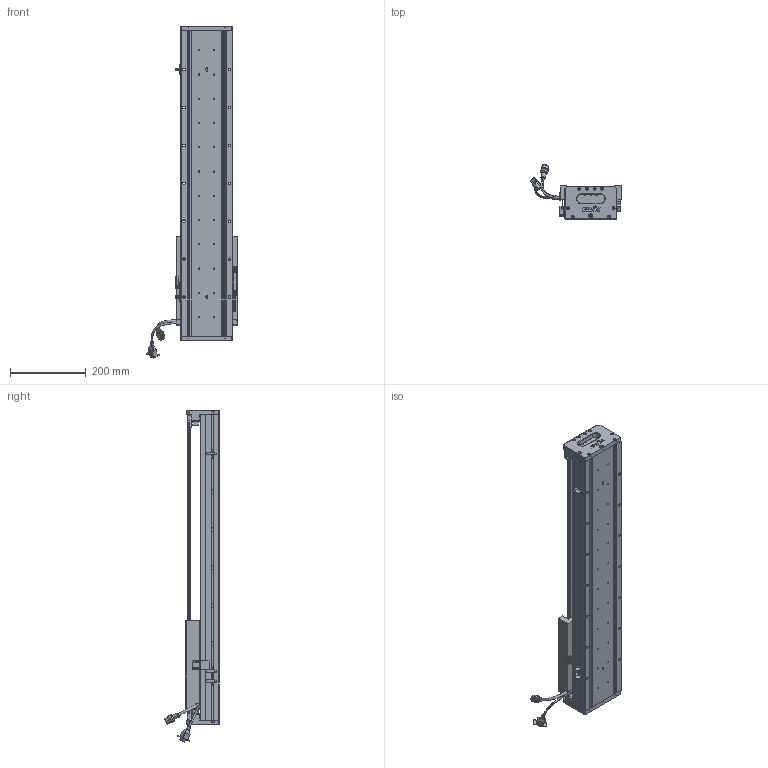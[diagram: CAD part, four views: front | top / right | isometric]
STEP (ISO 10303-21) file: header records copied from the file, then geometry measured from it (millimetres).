
FILE_DESCRIPTION (( 'STEP AP203' ), '1' );
FILE_NAME ('Z3-RY140D-1-L500-B-K.SLDASM_0500.step', '2021-05-17T08:00:17', ( '盈信电脑' ), ( '东莞市道滘镇水果街19号' ), 'SwSTEP 2.0', 'SolidWorks 2016', '' );
FILE_SCHEMA (( 'CONFIG_CONTROL_DESIGN' ));
Length unit declared in the file: millimetre
Products named in the file (36): SCALE; 140-Z-臏賑輸盄裔(21遴); 榋妏寠巭燃_暯_M2_2; SCREW-M1.6; HARNESS; SCREW-M1.6-1; SHIELDPLATE; SCALE-Part-2; HOLDER0; Z-RY140詩湍狟揤裔; PBU_SHEET; Z-140詩湍傷裔啣; HARNESS-Part-2; Z-RY140感应器672光电感应片; HARNESS-Part-1; Z3-RY140-L500直线电机模组底座_0500; SCREW-M1.6-2; 140蚥薯蝶輸; Z3-RY140-L500詩湍100mm遵_0500; 080黍杅芛假蚾釱21遴; LABEL-Part-1; COVER-Part-1; 140雄赽晤鎢ん堤盄; Z3-RY140D-1-L500-B-K.SLDASM_0500; SCREW-M1.7; LABEL; SEAL; SCREW-M1.6-3; SCALE-Part-1; SCREW-M1.7-1; Z3-RY140圉猾敕臏賑輸(21遴); SEAL-Part-1; Z-RY140詩湍奻揤裔; PSLH080_PSLF2; 覜茼ん672; COVER
Assembly tree (41 placements, depth 4):
  Z3-RY140D-1-L500-B-K.SLDASM_0500
    Z3-RY140-L500直线电机模组底座_0500
    Z-RY140感应器672光电感应片
    Z3-RY140圉猾敕臏賑輸(21遴)
    覜茼ん672  x3
    Z3-RY140-L500詩湍100mm遵_0500
    PSLH080_PSLF2
      SCALE
        SCALE-Part-1
        SCALE-Part-2
      HARNESS
        HARNESS-Part-1
        HARNESS-Part-2
      LABEL
        LABEL-Part-1
      COVER
        COVER-Part-1
      SEAL
        SEAL-Part-1
      榋妏寠巭燃_暯_M2_2
      SHIELDPLATE
      SCREW-M1.7
      SCREW-M1.7-1
      PBU_SHEET
      SCREW-M1.6
      SCREW-M1.6-1
      SCREW-M1.6-2
      SCREW-M1.6-3
      HOLDER0
    080黍杅芛假蚾釱21遴
    140-Z-臏賑輸盄裔(21遴)
    Z-140詩湍傷裔啣  x2
    Z-RY140詩湍狟揤裔  x2
    Z-RY140詩湍奻揤裔  x2
    140蚥薯蝶輸  x2
    140雄赽晤鎢ん堤盄
Bounding box: 239.84 x 143.88 x 875.88 mm (x, y, z)
Volume: 3484450.5 mm3; surface area: 892141.8 mm2
Topology: 36 solids, 36 shells, 2770 faces, 7238 edges, 4575 vertices
Faces by surface type: cylinder 1260, plane 1102, cone 286, torus 69, bspline 53
Entity records: 79346 total; most frequent: CARTESIAN_POINT 19263, DIRECTION 11758, ORIENTED_EDGE 11628, EDGE_CURVE 5814, AXIS2_PLACEMENT_3D 4318, VERTEX_POINT 3743, VECTOR 3122, LINE 3122
